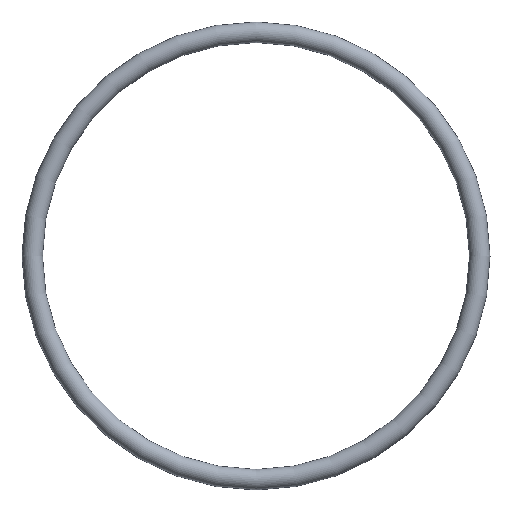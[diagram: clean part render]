
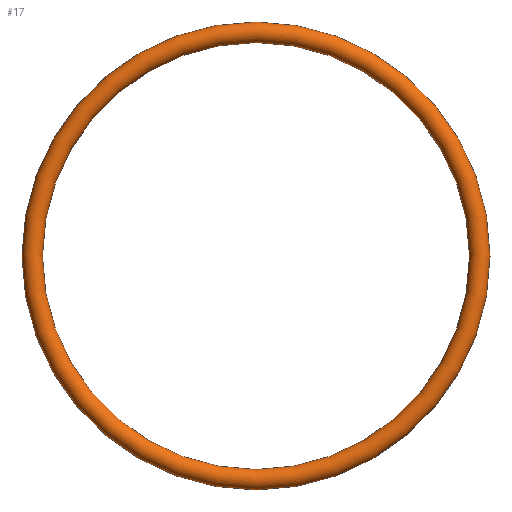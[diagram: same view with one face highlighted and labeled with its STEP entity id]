
A CAD part, top view. The second image highlights one B-rep face of the part: STEP entity #17.
In plain terms, the highlighted toroidal (fillet/blend) face has major radius 33.75 mm and minor radius 1.55 mm.
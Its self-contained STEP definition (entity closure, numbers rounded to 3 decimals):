
#17 = ADVANCED_FACE('',(#18),#31,.T.);
#18 = FACE_BOUND('',#19,.T.);
#19 = EDGE_LOOP('',(#20,#49,#71,#72));
#20 = ORIENTED_EDGE('',*,*,#21,.F.);
#21 = EDGE_CURVE('',#22,#22,#24,.T.);
#22 = VERTEX_POINT('',#23);
#23 = CARTESIAN_POINT('',(35.3,0.,0.));
#24 = SEAM_CURVE('',#25,(#30,#42),.PCURVE_S1.);
#25 = CIRCLE('',#26,35.3);
#26 = AXIS2_PLACEMENT_3D('',#27,#28,#29);
#27 = CARTESIAN_POINT('',(0.,0.,0.));
#28 = DIRECTION('',(0.,0.,1.));
#29 = DIRECTION('',(1.,0.,-0.));
#30 = PCURVE('',#31,#36);
#31 = TOROIDAL_SURFACE('',#32,33.75,1.55);
#32 = AXIS2_PLACEMENT_3D('',#33,#34,#35);
#33 = CARTESIAN_POINT('',(0.,0.,0.));
#34 = DIRECTION('',(0.,0.,1.));
#35 = DIRECTION('',(1.,0.,-0.));
#36 = DEFINITIONAL_REPRESENTATION('',(#37),#41);
#37 = LINE('',#38,#39);
#38 = CARTESIAN_POINT('',(0.,6.283));
#39 = VECTOR('',#40,1.);
#40 = DIRECTION('',(1.,0.));
#41 = ( GEOMETRIC_REPRESENTATION_CONTEXT(2) 
PARAMETRIC_REPRESENTATION_CONTEXT() REPRESENTATION_CONTEXT('2D SPACE',''
  ) );
#42 = PCURVE('',#31,#43);
#43 = DEFINITIONAL_REPRESENTATION('',(#44),#48);
#44 = LINE('',#45,#46);
#45 = CARTESIAN_POINT('',(0.,0.));
#46 = VECTOR('',#47,1.);
#47 = DIRECTION('',(1.,0.));
#48 = ( GEOMETRIC_REPRESENTATION_CONTEXT(2) 
PARAMETRIC_REPRESENTATION_CONTEXT() REPRESENTATION_CONTEXT('2D SPACE',''
  ) );
#49 = ORIENTED_EDGE('',*,*,#50,.F.);
#50 = EDGE_CURVE('',#22,#22,#51,.T.);
#51 = SEAM_CURVE('',#52,(#57,#64),.PCURVE_S1.);
#52 = CIRCLE('',#53,1.55);
#53 = AXIS2_PLACEMENT_3D('',#54,#55,#56);
#54 = CARTESIAN_POINT('',(33.75,0.,0.));
#55 = DIRECTION('',(0.,-1.,0.));
#56 = DIRECTION('',(1.,0.,0.));
#57 = PCURVE('',#31,#58);
#58 = DEFINITIONAL_REPRESENTATION('',(#59),#63);
#59 = LINE('',#60,#61);
#60 = CARTESIAN_POINT('',(6.283,-0.));
#61 = VECTOR('',#62,1.);
#62 = DIRECTION('',(0.,1.));
#63 = ( GEOMETRIC_REPRESENTATION_CONTEXT(2) 
PARAMETRIC_REPRESENTATION_CONTEXT() REPRESENTATION_CONTEXT('2D SPACE',''
  ) );
#64 = PCURVE('',#31,#65);
#65 = DEFINITIONAL_REPRESENTATION('',(#66),#70);
#66 = LINE('',#67,#68);
#67 = CARTESIAN_POINT('',(0.,-0.));
#68 = VECTOR('',#69,1.);
#69 = DIRECTION('',(0.,1.));
#70 = ( GEOMETRIC_REPRESENTATION_CONTEXT(2) 
PARAMETRIC_REPRESENTATION_CONTEXT() REPRESENTATION_CONTEXT('2D SPACE',''
  ) );
#71 = ORIENTED_EDGE('',*,*,#21,.T.);
#72 = ORIENTED_EDGE('',*,*,#50,.T.);
